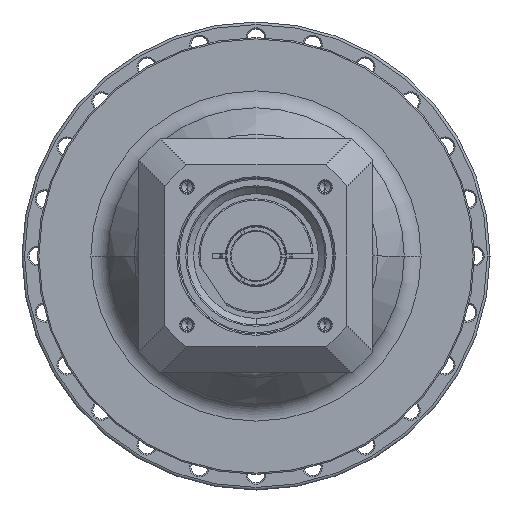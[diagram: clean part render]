
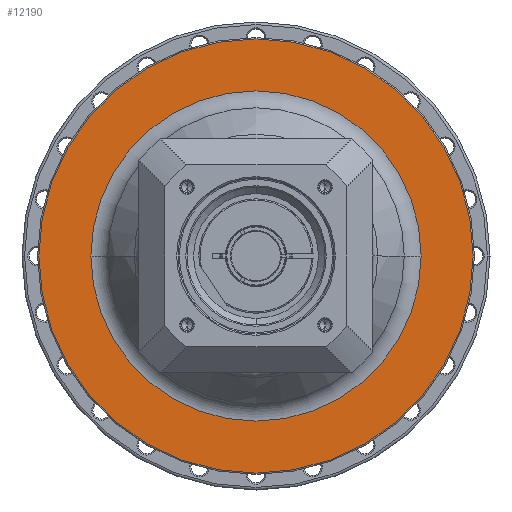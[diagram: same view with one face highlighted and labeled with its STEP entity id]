
A CAD part, left-side view. The second image highlights one B-rep face of the part: STEP entity #12190.
In plain terms, the highlighted planar face has unit normal (-1, 0, 0) as drawn and (1, 0, 0) by its records, which use the part's own axes.
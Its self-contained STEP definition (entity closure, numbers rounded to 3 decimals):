
#11730=CARTESIAN_POINT('',(-24.,0.,0.));
#11731=DIRECTION('',(-1.,0.,0.));
#11732=DIRECTION('',(0.,1.,0.));
#11733=AXIS2_PLACEMENT_3D('',#11730,#11731,#11732);
#11740=CARTESIAN_POINT('',(-24.,0.,0.));
#11741=DIRECTION('',(1.,0.,0.));
#11742=DIRECTION('',(0.,1.,0.));
#11743=AXIS2_PLACEMENT_3D('',#11740,#11741,#11742);
#11745=CARTESIAN_POINT('',(-24.,0.,0.));
#11746=DIRECTION('',(-1.,0.,0.));
#11747=DIRECTION('',(0.,-1.,0.));
#11748=AXIS2_PLACEMENT_3D('',#11745,#11746,#11747);
#11750=CARTESIAN_POINT('',(-24.,0.,0.));
#11751=DIRECTION('',(-1.,0.,0.));
#11752=DIRECTION('',(0.,1.,0.));
#11753=AXIS2_PLACEMENT_3D('',#11750,#11751,#11752);
#11875=CARTESIAN_POINT('',(-24.,-83.5,0.));
#11876=CARTESIAN_POINT('',(-24.,83.5,0.));
#11877=VERTEX_POINT('',#11875);
#11878=VERTEX_POINT('',#11876);
#11899=CARTESIAN_POINT('',(-24.,63.5,0.));
#11901=VERTEX_POINT('',#11899);
#11903=CARTESIAN_POINT('',(-24.,-63.5,0.));
#11905=VERTEX_POINT('',#11903);
#12175=CARTESIAN_POINT('',(-24.,0.,0.));
#12176=DIRECTION('',(1.,0.,0.));
#12177=DIRECTION('',(0.,-1.,0.));
#12178=AXIS2_PLACEMENT_3D('',#12175,#12176,#12177);
#12179=PLANE('',#12178);
#12181=ORIENTED_EDGE('',*,*,#12180,.T.);
#12183=ORIENTED_EDGE('',*,*,#12182,.T.);
#12184=EDGE_LOOP('',(#12181,#12183));
#12185=FACE_OUTER_BOUND('',#12184,.F.);
#12186=ORIENTED_EDGE('',*,*,#12170,.T.);
#12187=ORIENTED_EDGE('',*,*,#12154,.F.);
#12188=EDGE_LOOP('',(#12186,#12187));
#12189=FACE_BOUND('',#12188,.F.);
#12190=ADVANCED_FACE('',(#12185,#12189),#12179,.T.);
#11734=CIRCLE('',#11733,63.5);
#11744=CIRCLE('',#11743,63.5);
#11749=CIRCLE('',#11748,83.5);
#11754=CIRCLE('',#11753,83.5);
#12154=EDGE_CURVE('',#11901,#11905,#11734,.T.);
#12170=EDGE_CURVE('',#11901,#11905,#11744,.T.);
#12180=EDGE_CURVE('',#11877,#11878,#11749,.T.);
#12182=EDGE_CURVE('',#11878,#11877,#11754,.T.);
